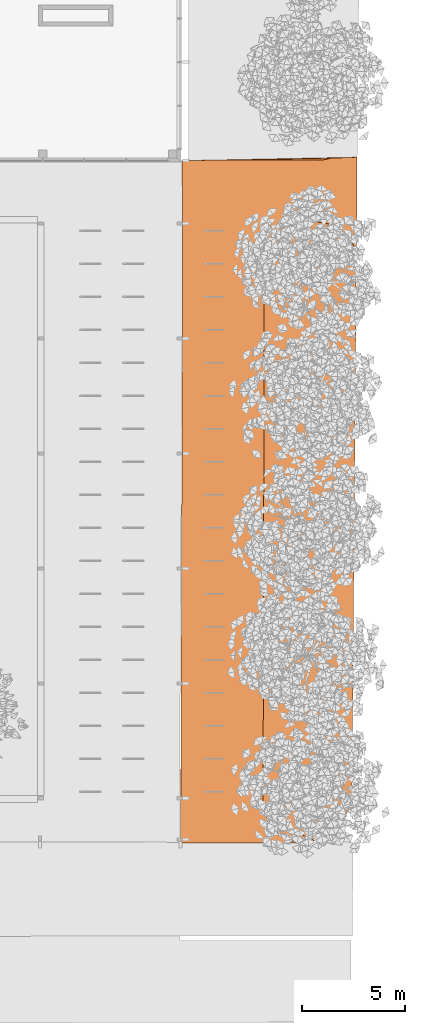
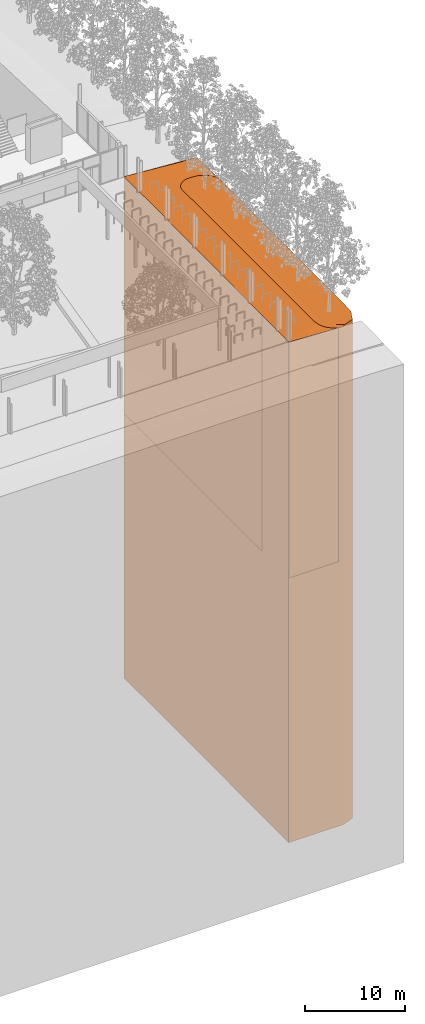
# One storey, part 51 of 69: 2 proxies.
"""IFC2X3 building model written with IfcOpenShell, lengths in millimetres."""

from ifc_helpers import new_model, entity, si_unit, converted_unit, derived_unit, money_unit, direction, frame, origin_with_axes, place, context, subcontext, project, spatial, faceted_brep, material, type_object, element, save


model = new_model("IFC2X3")

# Units and contexts
model_context = context("Model", 3, precision=0.01, world=origin_with_axes(), true_north=direction((0.0, 1.0)))
body_context = subcontext(model_context, "Body", "Model", "MODEL_VIEW")
ifc_project = project(units=[si_unit("LENGTHUNIT", "METRE", prefix="MILLI"), si_unit("AREAUNIT", "SQUARE_METRE"), si_unit("VOLUMEUNIT", "CUBIC_METRE"), converted_unit("PLANEANGLEUNIT", "DEGREE", entity("IfcPlaneAngleMeasure", 0.0174532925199), si_unit("PLANEANGLEUNIT", "RADIAN"), dimensions=[0, 0, 0, 0, 0, 0, 0]), si_unit("SOLIDANGLEUNIT", "STERADIAN"), money_unit("EUR"), converted_unit("TIMEUNIT", "Year", entity("IfcTimeMeasure", 31556926.0), si_unit("TIMEUNIT", "SECOND"), dimensions=[0, 0, 1, 0, 0, 0, 0]), si_unit("MASSUNIT", "GRAM", prefix="KILO"), si_unit("THERMODYNAMICTEMPERATUREUNIT", "DEGREE_CELSIUS"), si_unit("LUMINOUSINTENSITYUNIT", "LUMEN"), si_unit("ENERGYUNIT", "JOULE", prefix="MEGA"), derived_unit("THERMALCONDUCTANCEUNIT", [(si_unit("POWERUNIT", "WATT"), 1), (si_unit("LENGTHUNIT", "METRE"), -1), (si_unit("THERMODYNAMICTEMPERATUREUNIT", "KELVIN"), -1)]), derived_unit("SPECIFICHEATCAPACITYUNIT", [(si_unit("ENERGYUNIT", "JOULE"), 1), (si_unit("MASSUNIT", "GRAM", prefix="KILO"), -1), (si_unit("THERMODYNAMICTEMPERATUREUNIT", "KELVIN"), -1)]), derived_unit("MASSDENSITYUNIT", [(si_unit("MASSUNIT", "GRAM", prefix="KILO"), 1), (si_unit("VOLUMEUNIT", "CUBIC_METRE"), -1)])], contexts=[model_context])

# Site, building, storey
site_placement = place(None, origin_with_axes())
site = spatial("IfcSite", under=ifc_project, at=site_placement, Name="Puškini 31, Narva", CompositionType="ELEMENT")
building_placement = place(site_placement, origin_with_axes())
building = spatial("IfcBuilding", under=site, at=building_placement, Name="Narva Riigigümnaasium", CompositionType="ELEMENT")
storey_placement = place(building_placement, origin_with_axes())
storey = spatial("IfcBuildingStorey", under=building, at=storey_placement, Name="1.korrus 0.00", CompositionType="ELEMENT", Elevation=0.0)

# Proxies
ifc_material_1 = material(Name="Sillutiskivi")
building_element_proxy_type_1 = type_object("IfcBuildingElementProxyType", Name="Sillutiskivi 30000", PredefinedType="NOTDEFINED")
proxy_1_placement = place(storey_placement, frame((54387.6133984, 116843.402683, 1157.88154799), z_axis=(0.0, 0.0, 1.0), x_axis=(1.0, 0.0, 0.0)))
element("IfcBuildingElementProxy", 1, at=proxy_1_placement, inside=storey, type_object=building_element_proxy_type_1, material=ifc_material_1, Name="Kegliiklustee", context=body_context, shape_type="Brep", body=[
    faceted_brep([(7335.89620436, 33277.7271091, -30000.0), (8557.46412592, 33302.0571503, -30000.0), (8521.22985903, 28622.4620367, -30000.0), (8513.245285, 28658.1443506, -30000.0), (8472.18304337, 28794.9762747, -30000.0), (8421.46394592, 28928.5302199, -30000.0), (8361.34644556, 29058.1256259, -30000.0), (8292.13688729, 29183.1021044, -30000.0), (8214.18794714, 29302.8228037, -30000.0), (8127.89683506, 29416.6776547, -30000.0), (8033.70327077, 29524.0864792, -30000.0), (7932.08724308, 29624.5019463, -30000.0), (7823.56656398, 29717.4123619, -30000.0), (7708.69422997, 29802.3442758, -30000.0), (7588.05560413, 29878.8648944, -30000.0), (7462.26543326, 29946.5842863, -30000.0), (7331.96471522, 30005.1573689, -30000.0), (7197.81743261, 30054.2856671, -30000.0), (7060.50716923, 30093.7188345, -30000.0), (6920.73362671, 30123.2559287, -30000.0), (6779.20905899, 30142.7464354, -30000.0), (6636.65464281, 30152.0910355, -30000.0), (6581.55204778, 30151.6969529, -30000.0), (6056.13619296, 30152.8641492, -30000.0), (5984.70618801, 30153.022829, -30000.0), (5842.18752889, 30143.1478634, -30000.0), (5700.73646296, 30123.1308934, -30000.0), (5561.07379242, 30093.0739208, -30000.0), (5423.91120623, 30053.1301091, -30000.0), (5289.9476535, 30003.5030028, -30000.0), (5159.86578177, 29944.4454902, -30000.0), (5034.32845845, 29876.258515, -30000.0), (4913.97539296, 29799.2895422, -30000.0), (4799.41987693, 29713.9307882, -30000.0), (4691.24565903, 29620.6172215, -30000.0), (4590.00397026, 29519.8243468, -30000.0), (4496.21071507, 29412.0657813, -30000.0), (4410.34384238, 29297.8906382, -30000.0), (4332.8409101, 29177.8807276, -30000.0), (4264.0968554, 29052.6475927, -30000.0), (4204.46198223, 28922.8293927, -30000.0), (4154.24017623, 28789.0876515, -30000.0), (4113.68735621, 28652.1038863, -30000.0), (4083.01017006, 28512.5761349, -30000.0), (4062.36494167, 28371.2153989, -30000.0), (4051.8568744, 28228.7420201, -30000.0), (4051.69806156, 28157.2516802, -30000.0), (3994.72413132, 2157.23755014, -30000.0), (3992.88038093, 2085.71196727, -30000.0), (3999.18060762, 1942.75203993, -30000.0), (4015.43786768, 1800.57983739, -30000.0), (4041.57295739, 1659.88800832, -30000.0), (4077.45854922, 1521.36198917, -30000.0), (4122.91981216, 1385.67666479, -30000.0), (4177.73526353, 1253.49308043, -30000.0), (4241.63784793, 1125.45522124, -30000.0), (4314.31623842, 1002.18687478, -30000.0), (4395.41635318, 884.288592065, -30000.0), (4484.54308059, 772.334761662, -30000.0), (4581.26220421, 666.870811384, -30000.0), (4685.10251818, 568.410550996, -30000.0), (4795.55812293, 477.433668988, -30000.0), (4912.09088986, 394.383395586, -30000.0), (5034.13308305, 319.664343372, -30000.0), (5161.09012519, 253.640536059, -30000.0), (5292.34349434, 196.633634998, -30000.0), (5427.25373727, 148.921372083, -30000.0), (5565.16358485, 110.736196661, -30000.0), (5705.40115416, 82.2641430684, -30000.0), (5752.41076013, 76.0947295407, -30000.0), (0.155700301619, 71.0660343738, -30000.0), (12.0170083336, 5484.90348715, -30000.0), (95.7184344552, 27639.6174723, -30000.0), (72.5920338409, 33133.0634466, -30000.0), (1558.74076768, 33162.6631596, -30000.0), (6632.39260207, 33151.5903335, -30000.0), (6703.82260645, 33151.431407, -30000.0), (6846.34129964, 33161.3058803, -30000.0), (6987.79243468, 33181.3223616, -30000.0), (7127.45520901, 33211.3788517, -30000.0), (7264.61793315, 33251.3221896, -30000.0), (7335.89620436, 33277.7271091, -1757.10247486), (8557.46412592, 33302.0571503, -1857.88154799), (8539.59854655, 30994.7473825, -1757.88154799), (8521.22985902, 28622.4620367, -1674.58822363), (8513.245285, 28658.1443506, -1675.28087421), (8472.18304337, 28794.9762747, -1677.22879255), (8421.46394592, 28928.5302199, -1678.40848161), (8361.34644556, 29058.1256259, -1678.81392994), (8292.13688729, 29183.1021044, -1678.44307149), (8214.18794714, 29302.8228037, -1677.29779605), (8127.89683506, 29416.6776547, -1675.3839397), (8033.70327077, 29524.0864792, -1672.711255), (7932.08724308, 29624.5019463, -1669.29336134), (7823.56656398, 29717.4123619, -1665.14767554), (7708.69422997, 29802.3442758, -1660.29532304), (7661.83523209, 29832.0667588, -1657.88154799), (7588.05560413, 29878.8648944, -1657.88154799), (7667.79460512, 29828.2867513, -1658.41905419), (7571.89943089, 29887.5626029, -1657.88154799), (7462.26543326, 29946.5842863, -1649.43712688), (7331.96471522, 30005.1573689, -1639.54088796), (7197.81743261, 30054.2856671, -1629.48766917), (7138.51774914, 30071.3155255, -1625.1003519), (7060.50716923, 30093.7188345, -1620.10469901), (6920.73362671, 30123.2559287, -1611.06672055), (6779.20905899, 30142.7464354, -1601.82991376), (6636.65464281, 30152.0910355, -1592.44134729), (6581.55204778, 30151.6969529, -1588.77939394), (6116.08265517, 30152.7309799, -1557.88154799), (6056.13619296, 30152.8641492, -1553.90230344), (5984.70618801, 30153.022829, -1549.1607816), (5842.18752889, 30143.1478634, -1539.61664198), (5700.73646296, 30123.1308934, -1530.06004116), (5561.07379242, 30093.0739208, -1520.53967739), (5423.91120623, 30053.1301091, -1511.10406424), (5289.9476535, 30003.5030028, -1501.80128346), (5159.86578177, 29944.4454902, -1492.67873988), (5089.07483649, 29905.9946112, -1487.66235518), (5034.32845845, 29876.258515, -1482.84922762), (4913.97539296, 29799.2895422, -1471.82933354), (4799.41987693, 29713.9307882, -1460.88254271), (4769.41127092, 29688.0446749, -1457.88154799), (4691.24565903, 29620.6172215, -1447.34816248), (4590.00397026, 29519.8243468, -1433.01885609), (4496.21071507, 29412.0657813, -1419.01052591), (4410.34384238, 29297.8906382, -1405.39455518), (4332.8409101, 29177.8807276, -1392.24032776), (4264.0968554, 29052.6475927, -1379.61487457), (4204.46198223, 28922.8293927, -1367.58253205), (4173.88539449, 28841.403287, -1357.88154799), (4154.24017623, 28789.0876515, -1354.1339412), (4204.15032503, 28921.999443, -1367.51192507), (4131.90490857, 28713.6411336, -1348.8727681), (4113.68735621, 28652.1038863, -1344.6448499), (4083.01017006, 28512.5761349, -1335.27295242), (4062.36494167, 28371.2153989, -1325.98838765), (4051.8568744, 28228.7420201, -1316.83846758), (4051.69806156, 28157.2516802, -1312.35035509), (3995.16153833, 2356.84794121, -1257.35809594), (3994.72413132, 2157.23755014, -1257.37150198), (4049.79681564, 27289.6194046, -1257.88154799), (4048.16817696, 26546.3912574, -1257.88154799), (4047.95163015, 26447.5702664, -1250.72470573), (4043.6700052, 24493.6536488, -1257.25080339), (3992.88038093, 2085.71196727, -1257.37270531), (3999.18060762, 1942.75203993, -1257.39642108), (4015.43786768, 1800.57983739, -1257.44133044), (4041.57295739, 1659.88800832, -1257.50721459), (4077.45854922, 1521.36198917, -1257.59375254), (4078.43805148, 1518.43853141, -1257.596053), (4122.91981216, 1385.67666479, -1273.91057234), (4177.73526353, 1253.49308043, -1290.58343398), (4241.63784793, 1125.45522124, -1307.17415862), (4314.31623842, 1002.18687478, -1323.60191791), (4395.41635318, 884.288592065, -1339.78667745), (4484.54308059, 772.334761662, -1355.64958673), (4581.26220421, 666.870811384, -1371.11336325), (4685.10251818, 568.410550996, -1386.10266903), (4795.55812293, 477.433668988, -1400.5444777), (4912.09088986, 394.383395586, -1414.3684302), (5034.13308305, 319.664343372, -1427.50717764), (5158.62880845, 254.920539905, -1438.85807259), (5161.09012519, 253.640536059, -1439.40372659), (5144.92613678, 262.046592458, -1438.31929195), (5146.32711772, 261.318014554, -1438.48104681), (5176.69245442, 246.864020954, -1442.44020971), (5292.34349434, 196.633634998, -1466.50628605), (5427.25373727, 148.921372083, -1490.61066462), (5565.16358485, 110.736196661, -1511.38918872), (5705.40115416, 82.2641430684, -1528.74062746), (5752.41076013, 76.0947295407, -1533.32615715), (0.155700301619, 71.0660343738, -1249.40198554), (12.0170083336, 5484.90348715, -1231.08860451), (0.156338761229, 71.3574454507, -1249.29572927), (0.162356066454, 74.1039142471, -1248.99600751), (0.166445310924, 75.970361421, -1248.99588215), (0.270664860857, 123.539120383, -1248.99565156), (95.7184344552, 27639.6174723, -1157.88154799), (72.5920338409, 33133.0634466, -1157.88154799), (1558.74076768, 33162.6631596, -1280.48847741), (6278.43299689, 33152.3628211, -1657.88154799), (6632.39260207, 33151.5903335, -1685.27499612), (1683.21182379, 33162.3915118, -1303.64135718), (1779.21038887, 33162.1820028, -1309.68017314), (2402.03594647, 33160.8227375, -1357.88154799), (3694.168297, 33158.0027654, -1457.88154799), (4986.300647, 33155.1827933, -1557.88154799), (6703.82260645, 33151.431407, -1690.80296216), (6846.34129964, 33161.3058803, -1702.18753269), (6987.79243468, 33181.3223616, -1713.84272851), (7127.45520901, 33211.3788517, -1725.70915742), (7264.61793315, 33251.3221896, -1737.72635081), (7277.2177164, 33255.9897588, -1738.86503266), (7334.50011969, 33277.2099318, -1759.27943472), (7520.82589203, 33260.146235, -1757.88154799), (7620.15306181, 30168.8403621, -1657.88154799), (6032.37117996, 30829.082878, -1557.88154799), (4444.58929822, 31489.3253938, -1457.88154799), (4638.73755112, 29920.6929033, -1457.88154799), (4134.98922682, 28856.2513055, -1357.88154799), (3124.45346804, 29181.1194817, -1357.88154799), (1609.18642477, 28074.2295866, -1257.88154799), (5153.09008382, 250.610080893, -1439.90137891), (1614.39182087, 30019.4027361, -1257.88154799), (1115.65198438, 33150.8602784, -1257.88154799), (1269.0255345, 32809.8104246, -1257.88154799), (2856.80741635, 32149.5679087, -1357.88154799), (3126.56468593, 29970.0478192, -1357.88154799)], [[[0, 1, 2, 3, 4, 5, 6, 7, 8, 9, 10, 11, 12, 13, 14, 15, 16, 17, 18, 19, 20, 21, 22, 23, 24, 25, 26, 27, 28, 29, 30, 31, 32, 33, 34, 35, 36, 37, 38, 39, 40, 41, 42, 43, 44, 45, 46, 47, 48, 49, 50, 51, 52, 53, 54, 55, 56, 57, 58, 59, 60, 61, 62, 63, 64, 65, 66, 67, 68, 69, 70, 71, 72, 73, 74, 75, 76, 77, 78, 79, 80]], [[1, 0, 81, 82]], [[2, 1, 82, 83, 84]], [[84, 85, 3, 2]], [[85, 86, 4, 3]], [[86, 87, 5, 4]], [[87, 88, 6, 5]], [[88, 89, 7, 6]], [[89, 90, 8, 7]], [[90, 91, 9, 8]], [[91, 92, 10, 9]], [[92, 93, 11, 10]], [[93, 94, 12, 11]], [[94, 95, 13, 12]], [[96, 97, 14, 13, 95, 98]], [[99, 100, 15, 14, 97]], [[100, 101, 16, 15]], [[101, 102, 17, 16]], [[103, 104, 18, 17, 102]], [[104, 105, 19, 18]], [[105, 106, 20, 19]], [[106, 107, 21, 20]], [[107, 108, 22, 21]], [[109, 110, 23, 22, 108]], [[110, 111, 24, 23]], [[111, 112, 25, 24]], [[112, 113, 26, 25]], [[113, 114, 27, 26]], [[114, 115, 28, 27]], [[115, 116, 29, 28]], [[116, 117, 30, 29]], [[118, 119, 31, 30, 117]], [[119, 120, 32, 31]], [[120, 121, 33, 32]], [[122, 123, 34, 33, 121]], [[123, 124, 35, 34]], [[124, 125, 36, 35]], [[125, 126, 37, 36]], [[126, 127, 38, 37]], [[127, 128, 39, 38]], [[128, 129, 40, 39]], [[130, 131, 41, 40, 129, 132]], [[133, 134, 42, 41, 131]], [[134, 135, 43, 42]], [[135, 136, 44, 43]], [[136, 137, 45, 44]], [[137, 138, 46, 45]], [[139, 140, 47, 46, 138, 141, 142, 143, 144]], [[140, 145, 48, 47]], [[145, 146, 49, 48]], [[146, 147, 50, 49]], [[147, 148, 51, 50]], [[148, 149, 52, 51]], [[150, 151, 53, 52, 149]], [[151, 152, 54, 53]], [[152, 153, 55, 54]], [[153, 154, 56, 55]], [[154, 155, 57, 56]], [[155, 156, 58, 57]], [[156, 157, 59, 58]], [[157, 158, 60, 59]], [[158, 159, 61, 60]], [[159, 160, 62, 61]], [[160, 161, 63, 62]], [[162, 163, 64, 63, 161, 164, 165]], [[166, 167, 65, 64, 163]], [[167, 168, 66, 65]], [[168, 169, 67, 66]], [[169, 170, 68, 67]], [[171, 69, 68, 170]], [[69, 171, 172, 70]], [[173, 71, 70, 172, 174, 175, 176, 177]], [[72, 71, 173, 178]], [[73, 72, 178, 179]], [[180, 74, 73, 179]], [[181, 182, 75, 74, 180, 183, 184, 185, 186, 187]], [[182, 188, 76, 75]], [[188, 189, 77, 76]], [[189, 190, 78, 77]], [[190, 191, 79, 78]], [[191, 192, 80, 79]], [[81, 0, 80, 192, 193, 194]], [[81, 194, 82]], [[83, 82, 195]], [[85, 84, 83, 98, 95, 94, 93, 92, 91, 90, 89, 88, 87, 86]], [[97, 96, 196, 99]], [[96, 98, 83, 196]], [[100, 99, 196, 103, 102, 101]], [[104, 103, 196, 197, 109, 108, 107, 106, 105]], [[110, 109, 197, 198, 199, 118, 117, 116, 115, 114, 113, 112, 111]], [[119, 118, 199, 122, 121, 120]], [[123, 122, 199, 200, 132, 129, 128, 127, 126, 125, 124]], [[131, 130, 200, 133]], [[130, 132, 200]], [[134, 133, 200, 201, 202, 141, 138, 137, 136, 135]], [[150, 149, 148, 147, 146, 145, 140, 139, 176, 175]], [[142, 141, 202]], [[143, 142, 202, 178]], [[144, 143, 178, 173, 177]], [[139, 144, 177, 176]], [[164, 161, 160, 159, 158, 157, 156, 155, 154, 153, 152, 151, 150, 175, 174, 203]], [[166, 163, 162, 203]], [[165, 164, 203]], [[162, 165, 203]], [[171, 170, 169, 168, 167, 166, 203, 174, 172]], [[179, 178, 204]], [[183, 180, 179, 205]], [[193, 192, 191, 190, 189, 188, 182, 181, 196, 83, 195]], [[184, 183, 205]], [[185, 184, 205, 206, 207]], [[186, 185, 207, 198]], [[187, 186, 198, 197]], [[181, 187, 197, 196]], [[194, 193, 195, 82]], [[198, 207, 208, 199]], [[199, 208, 200]], [[208, 201, 200]], [[204, 202, 201, 208]], [[204, 178, 202]], [[204, 206, 179]], [[206, 205, 179]], [[206, 204, 208, 207]]]),
])
ifc_material_2 = material(Name="Roheala")
building_element_proxy_type_2 = type_object("IfcBuildingElementProxyType", Name="Roheala", PredefinedType="NOTDEFINED")
proxy_2_placement = place(storey_placement, frame((54379.1766765, 116914.461206, -61100.0), z_axis=(0.0, 0.0, 1.0), x_axis=(1.0, 0.0, 0.0)))
element("IfcBuildingElementProxy", 2, at=proxy_2_placement, inside=storey, type_object=building_element_proxy_type_2, material=ifc_material_2, Name="Roheala", context=body_context, shape_type="Brep", body=[
    faceted_brep([(7344.33292631, 33206.6685863, 60500.7790731), (7344.33292631, 33206.6685863, 32257.881548), (8565.90084787, 33230.9986275, 32257.881548), (8565.90084787, 33230.9986275, 0.0), (81.028755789, 33062.0049238, 0.0), (81.028755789, 33062.0049238, 32257.881548), (1567.17748963, 33091.6046368, 32257.881548), (1567.17748963, 33091.6046368, 60977.3930706), (7342.93684163, 33206.151409, 60498.6021133), (7285.65443835, 33184.931236, 60519.0165153), (7273.0546551, 33180.2636668, 60520.1551972), (7273.0546551, 33180.2636668, 32257.881548), (8529.66658097, 28551.403514, 32257.881548), (7135.89193096, 33140.3203289, 32257.881548), (6996.22915663, 33110.2638389, 32257.881548), (6854.77802159, 33090.2473575, 32257.881548), (6712.25932839, 33080.3728843, 32257.881548), (6640.82932402, 33080.5318108, 32257.881548), (104.155156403, 27568.5589495, 32257.881548), (20.4537302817, 5413.84496438, 32257.881548), (8.59242224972, 0.00751160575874, 32257.881548), (5760.84748207, 5.03620677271, 32257.881548), (5713.83787611, 11.2056203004, 32257.881548), (5573.6003068, 39.6776738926, 32257.881548), (5435.69045922, 77.8628493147, 32257.881548), (5300.78021629, 125.57511223, 32257.881548), (5169.52684714, 182.582013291, 32257.881548), (5042.569805, 248.605820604, 32257.881548), (4920.52761181, 323.324872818, 32257.881548), (4803.99484488, 406.37514622, 32257.881548), (4693.53924013, 497.352028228, 32257.881548), (4589.69892615, 595.812288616, 32257.881548), (4492.97980254, 701.276238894, 32257.881548), (4403.85307512, 813.230069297, 32257.881548), (4322.75296037, 931.128352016, 32257.881548), (4250.07456988, 1054.39669847, 32257.881548), (4186.17198547, 1182.43455766, 32257.881548), (4131.35653411, 1314.61814202, 32257.881548), (4085.89527117, 1450.3034664, 32257.881548), (4050.00967934, 1588.82948555, 32257.881548), (4023.87458963, 1729.52131462, 32257.881548), (4007.61732957, 1871.69351717, 32257.881548), (4001.31710288, 2014.65344451, 32257.881548), (4003.16085327, 2086.17902737, 32257.881548), (4060.1347835, 28086.1931574, 32257.881548), (4060.29359635, 28157.6834974, 32257.881548), (4070.80166362, 28300.1568762, 32257.881548), (4091.44689201, 28441.5176122, 32257.881548), (4122.12407816, 28581.0453635, 32257.881548), (4162.67689818, 28718.0291287, 32257.881548), (4212.89870417, 28851.7708699, 32257.881548), (4272.53357735, 28981.5890699, 32257.881548), (4341.27763204, 29106.8222048, 32257.881548), (4418.78056433, 29226.8321154, 32257.881548), (4504.64743702, 29341.0072586, 32257.881548), (4598.44069221, 29448.765824, 32257.881548), (4699.68238098, 29549.5586987, 32257.881548), (4807.85659888, 29642.8722654, 32257.881548), (4922.41211491, 29728.2310194, 32257.881548), (5042.76518039, 29805.1999922, 32257.881548), (5168.30250372, 29873.3869675, 32257.881548), (5298.38437545, 29932.44448, 32257.881548), (5432.34792818, 29982.0715863, 32257.881548), (5569.51051437, 30022.015398, 32257.881548), (5709.17318491, 30052.0723706, 32257.881548), (5850.62425084, 30072.0893406, 32257.881548), (5993.14290996, 30081.9643062, 32257.881548), (6064.5729149, 30081.8056265, 32257.881548), (6589.98876973, 30080.6384301, 32257.881548), (6645.09136476, 30081.0325127, 32257.881548), (6787.64578094, 30071.6879127, 32257.881548), (6929.17034866, 30052.197406, 32257.881548), (7068.94389118, 30022.6603118, 32257.881548), (7206.25415456, 29983.2271444, 32257.881548), (7340.40143717, 29934.0988461, 32257.881548), (7470.7021552, 29875.5257635, 32257.881548), (7596.49232608, 29807.8063717, 32257.881548), (7717.13095191, 29731.285753, 32257.881548), (7832.00328592, 29646.3538391, 32257.881548), (7940.52396503, 29553.4434235, 32257.881548), (8042.13999272, 29453.0279564, 32257.881548), (8136.33355701, 29345.6191319, 32257.881548), (8222.62466909, 29231.7642809, 32257.881548), (8300.57360923, 29112.0435816, 32257.881548), (8369.78316751, 28987.0671031, 32257.881548), (8429.90066787, 28857.4716971, 32257.881548), (8480.61976532, 28723.9177519, 32257.881548), (8521.68200695, 28587.0858279, 32257.881548), (8529.66658097, 28551.403514, 60583.2933244), (8525.98225565, 28075.5790453, 60600.0), (8525.98225565, 28075.5790453, 0.0), (6258.33549228, 5.47111717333, 0.0), (0.0, 0.0, 0.0), (104.155156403, 27568.5589495, 0.0), (8307.3001986, 1959.47271656, 0.0), (7642.13587133, 507.630400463, 0.0), (6640.82932402, 33080.5318108, 60572.6065519), (6286.86971883, 33081.3042984, 60600.0), (4994.73736894, 33084.1242705, 60700.0), (3702.60501895, 33086.9442426, 60800.0), (2410.47266842, 33089.7642147, 60900.0), (1787.64711081, 33091.1234801, 60948.2013749), (1691.64854573, 33091.332989, 60954.2401908), (2405.12348783, 33101.6589466, 60900.0), (3686.15826946, 33123.5161385, 60800.0), (4967.19305096, 33145.3733294, 60700.0), (6248.22783235, 33167.2305204, 60600.0), (6712.25932839, 33080.3728843, 60567.0785858), (6854.77802159, 33090.2473575, 60555.6940153), (6996.22915663, 33110.2638389, 60544.0388195), (7135.89193096, 33140.3203289, 60532.1723906), (0.0, 0.0, 61008.9036738), (20.4537302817, 5413.84496438, 61026.7929435), (8.70738680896, 52.4805976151, 61008.8858964), (8.60316725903, 4.91183865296, 61008.8856658), (8.59907801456, 3.04539147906, 61008.8855405), (8.59306070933, 0.29892268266, 61008.5858187), (8.59242224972, 0.00751160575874, 61008.4795625), (6258.33549228, 5.47111717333, 60700.0), (5760.84748207, 5.03620677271, 60724.5553908), (5713.83787611, 11.2056203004, 60729.1409205), (5573.6003068, 39.6776738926, 60746.4923593), (5435.69045922, 77.8628493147, 60767.2708834), (5300.78021629, 125.57511223, 60791.3752619), (5185.12917637, 175.805498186, 60815.4413383), (5169.52684714, 182.582013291, 60818.4778214), (5167.0655304, 183.862017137, 60819.0234754), (5154.76383967, 190.259491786, 60819.4005012), (5153.36285872, 190.98806969, 60819.562256), (5042.569805, 248.605820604, 60830.3743704), (4920.52761181, 323.324872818, 60843.5131178), (4803.99484488, 406.37514622, 60857.3370703), (4693.53924013, 497.352028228, 60871.778879), (4589.69892615, 595.812288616, 60886.7681847), (4492.97980254, 701.276238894, 60902.2319613), (4403.85307512, 813.230069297, 60918.0948705), (4322.75296037, 931.128352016, 60934.2796301), (4250.07456988, 1054.39669847, 60950.7073894), (4186.17198547, 1182.43455766, 60967.298114), (4131.35653411, 1314.61814202, 60983.9709757), (4086.87477343, 1447.38000864, 61000.285495), (4085.89527117, 1450.3034664, 61000.2877954), (4050.00967934, 1588.82948555, 61000.3743334), (4023.87458963, 1729.52131462, 61000.4402175), (4007.61732957, 1871.69351717, 61000.4851269), (4001.31710288, 2014.65344451, 61000.5088427), (4003.16085327, 2086.17902737, 61000.510046), (4058.23353759, 27218.5608818, 61000.0), (4060.1347835, 28086.1931574, 60945.5311929), (4003.59826028, 2285.78941844, 61000.523452), (4052.10672715, 24422.595126, 61000.6307446), (4056.38835209, 26376.5117436, 61007.1568423), (4056.60489891, 26475.3327347, 61000.0), (4060.29359635, 28157.6834974, 60941.0430804), (4070.80166362, 28300.1568762, 60931.8931603), (4091.44689201, 28441.5176122, 60922.6085956), (4122.12407816, 28581.0453635, 60913.2366981), (4140.34163052, 28642.5826108, 60909.0087799), (4162.67689818, 28718.0291287, 60903.7476068), (4212.58704698, 28850.9409202, 60890.3696229), (4212.89870417, 28851.7708699, 60890.2990159), (4182.32211643, 28770.3447642, 60900.0), (4272.53357735, 28981.5890699, 60878.2666734), (4341.27763204, 29106.8222048, 60865.6412202), (4418.78056433, 29226.8321154, 60852.4869928), (4504.64743702, 29341.0072586, 60838.8710221), (4598.44069221, 29448.765824, 60824.8626919), (4699.68238098, 29549.5586987, 60810.5333855), (4777.84799287, 29616.9861521, 60800.0), (4807.85659888, 29642.8722654, 60796.9990053), (4922.41211491, 29728.2310194, 60786.0522145), (5042.76518039, 29805.1999922, 60775.0323204), (5097.51155844, 29834.9360884, 60770.2191928), (5168.30250372, 29873.3869675, 60765.2028081), (5298.38437545, 29932.44448, 60756.0802645), (5432.34792818, 29982.0715863, 60746.7774837), (5569.51051437, 30022.015398, 60737.3418706), (5709.17318491, 30052.0723706, 60727.8215068), (5850.62425084, 30072.0893406, 60718.264906), (5993.14290996, 30081.9643062, 60708.7207664), (6064.5729149, 30081.8056265, 60703.9792446), (6124.51937711, 30081.6724571, 60700.0), (6589.98876973, 30080.6384301, 60669.1021541), (6645.09136476, 30081.0325127, 60665.4402007), (6787.64578094, 30071.6879127, 60656.0516342), (6929.17034866, 30052.197406, 60646.8148274), (7068.94389118, 30022.6603118, 60637.776849), (7146.95447109, 30000.2570028, 60632.7811961), (7206.25415456, 29983.2271444, 60628.3938788), (7340.40143717, 29934.0988461, 60618.34066), (7470.7021552, 29875.5257635, 60608.4444211), (7580.33615284, 29816.5040801, 60600.0), (7596.49232608, 29807.8063717, 60600.0), (7676.23132707, 29757.2282285, 60599.4624938), (7717.13095191, 29731.285753, 60597.586225), (7670.27195404, 29761.008236, 60600.0), (7832.00328592, 29646.3538391, 60592.7338725), (7940.52396503, 29553.4434235, 60588.5881866), (8042.13999272, 29453.0279564, 60585.170293), (8136.33355701, 29345.6191319, 60582.4976083), (8222.62466909, 29231.7642809, 60580.5837519), (8300.57360923, 29112.0435816, 60579.4384765), (8369.78316751, 28987.0671031, 60579.067618), (8429.90066787, 28857.4716971, 60579.4730664), (8480.61976532, 28723.9177519, 60580.6527554), (8521.68200695, 28587.0858279, 60582.6006738), (7671.52000321, 29750.9245477, 60600.0), (8332.38658038, 4955.4140517, 60700.0), (8307.3001986, 1959.47271656, 60700.0), (8431.4249535, 16783.0725156, 60600.0), (8291.32232082, 1924.59808764, 60701.5214488), (7642.13587133, 507.630400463, 60800.0), (6534.62197654, 105.731114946, 60814.2811621), (5596.9552567, 518.419549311, 60900.0), (4294.83235911, 1551.80546281, 61000.0), (4222.2609506, 1495.32746413, 61000.0), (4253.67418744, 2428.56620845, 61000.0), (4109.18914552, 27202.1796155, 61000.0), (4361.0474165, 26284.6224323, 61000.0), (4320.89565594, 26723.7523881, 61000.0), (4322.57423233, 26918.3391071, 61000.0), (4148.15741606, 27201.0583598, 61000.0), (4294.85660651, 28727.3864398, 60900.0), (4861.58161012, 29467.9089104, 60800.0), (6159.34713839, 29800.2794655, 60700.0), (7535.98748551, 29557.9889479, 60600.0), (7474.14442585, 28842.1125657, 60600.0), (7796.34478243, 27929.825598, 60600.0), (7825.41425172, 27882.705722, 60600.0), (7790.16415068, 23796.3846328, 60600.0), (6990.47665899, 3944.85885692, 60800.0), (7542.67030432, 12479.8196471, 60700.0), (7275.69472959, 1884.96576158, 60800.0), (7105.93195504, 803.178174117, 60800.0), (5802.38247964, 1827.47343626, 60900.0), (4329.07022968, 1769.98111094, 61000.0), (4303.14131416, 1957.24411952, 61000.0), (5350.0062264, 5778.98402132, 60900.0), (5429.12334255, 23357.1307125, 60900.0), (5188.21277977, 25991.9104497, 60900.0), (5198.28423727, 27159.4307613, 60900.0), (5060.20425762, 27383.2501691, 60900.0), (4818.55399025, 28067.4653953, 60900.0), (5227.10187245, 29263.8329526, 60800.0), (6884.29794074, 27747.6337878, 60700.0), (6949.7042469, 27641.6140687, 60700.0), (6922.84702708, 24528.226572, 60700.0), (7565.27519465, 17502.147273, 60700.0), (6446.33826536, 9129.4018342, 60800.0), (6497.1992686, 20429.6389928, 60800.0), (5646.80898651, 2951.05148776, 60900.0), (6055.52990336, 25260.0685104, 60800.0), (6073.99424196, 27400.5224146, 60800.0), (5972.25109918, 27565.4419784, 60800.0), (5488.9505642, 28933.8724299, 60800.0)], [[[0, 1, 2, 3, 4, 5, 6, 7]], [[1, 0, 8, 9, 10, 11]], [[12, 2, 1, 11, 13, 14, 15, 16, 17, 6, 5, 18, 19, 20, 21, 22, 23, 24, 25, 26, 27, 28, 29, 30, 31, 32, 33, 34, 35, 36, 37, 38, 39, 40, 41, 42, 43, 44, 45, 46, 47, 48, 49, 50, 51, 52, 53, 54, 55, 56, 57, 58, 59, 60, 61, 62, 63, 64, 65, 66, 67, 68, 69, 70, 71, 72, 73, 74, 75, 76, 77, 78, 79, 80, 81, 82, 83, 84, 85, 86, 87]], [[12, 88, 89, 90, 3, 2]], [[91, 92, 93, 4, 3, 90, 94, 95]], [[18, 5, 4, 93]], [[96, 97, 98, 99, 100, 101, 102, 7, 6, 17]], [[8, 0, 7, 102]], [[9, 8, 102, 101, 103, 104, 105, 106]], [[10, 9, 106, 97, 96, 107, 108, 109, 110]], [[10, 110, 13, 11]], [[110, 109, 14, 13]], [[109, 108, 15, 14]], [[108, 107, 16, 15]], [[107, 96, 17, 16]], [[19, 18, 93, 92, 111, 112]], [[19, 112, 113, 114, 115, 116, 117, 20]], [[20, 117, 111, 92, 91, 118, 119, 21]], [[21, 119, 120, 22]], [[120, 121, 23, 22]], [[121, 122, 24, 23]], [[122, 123, 25, 24]], [[123, 124, 125, 26, 25]], [[125, 126, 127, 128, 129, 27, 26]], [[129, 130, 28, 27]], [[130, 131, 29, 28]], [[131, 132, 30, 29]], [[132, 133, 31, 30]], [[133, 134, 32, 31]], [[134, 135, 33, 32]], [[135, 136, 34, 33]], [[136, 137, 35, 34]], [[137, 138, 36, 35]], [[138, 139, 37, 36]], [[139, 140, 141, 38, 37]], [[141, 142, 39, 38]], [[142, 143, 40, 39]], [[143, 144, 41, 40]], [[144, 145, 42, 41]], [[145, 146, 43, 42]], [[147, 148, 44, 43, 146, 149, 150, 151, 152]], [[148, 153, 45, 44]], [[153, 154, 46, 45]], [[154, 155, 47, 46]], [[155, 156, 48, 47]], [[157, 158, 49, 48, 156]], [[159, 160, 50, 49, 158, 161]], [[160, 162, 51, 50]], [[162, 163, 52, 51]], [[163, 164, 53, 52]], [[164, 165, 54, 53]], [[165, 166, 55, 54]], [[166, 167, 56, 55]], [[168, 169, 57, 56, 167]], [[169, 170, 58, 57]], [[170, 171, 59, 58]], [[172, 173, 60, 59, 171]], [[173, 174, 61, 60]], [[174, 175, 62, 61]], [[175, 176, 63, 62]], [[176, 177, 64, 63]], [[177, 178, 65, 64]], [[178, 179, 66, 65]], [[179, 180, 67, 66]], [[181, 182, 68, 67, 180]], [[182, 183, 69, 68]], [[183, 184, 70, 69]], [[184, 185, 71, 70]], [[185, 186, 72, 71]], [[187, 188, 73, 72, 186]], [[188, 189, 74, 73]], [[189, 190, 75, 74]], [[191, 192, 76, 75, 190]], [[193, 194, 77, 76, 192, 195]], [[194, 196, 78, 77]], [[196, 197, 79, 78]], [[197, 198, 80, 79]], [[198, 199, 81, 80]], [[199, 200, 82, 81]], [[200, 201, 83, 82]], [[201, 202, 84, 83]], [[202, 203, 85, 84]], [[203, 204, 86, 85]], [[204, 205, 87, 86]], [[205, 88, 12, 87]], [[194, 193, 206, 89, 88, 205, 204, 203, 202, 201, 200, 199, 198, 197, 196]], [[207, 208, 94, 90, 89, 209]], [[210, 211, 95, 94, 208]], [[212, 118, 91, 95, 211]], [[98, 97, 106, 105]], [[99, 98, 105, 104]], [[100, 99, 104, 103]], [[101, 100, 103]], [[113, 112, 111]], [[114, 113, 111]], [[115, 114, 111]], [[116, 115, 111]], [[117, 116, 111]], [[120, 119, 118, 124, 123, 122, 121]], [[125, 124, 118, 213, 126]], [[127, 126, 213, 214]], [[128, 127, 214, 215]], [[129, 128, 215, 140, 139, 138, 137, 136, 135, 134, 133, 132, 131, 130]], [[141, 140, 215, 216, 149, 146, 145, 144, 143, 142]], [[148, 147, 217, 157, 156, 155, 154, 153]], [[150, 149, 216, 218]], [[151, 150, 218]], [[152, 151, 218]], [[147, 152, 218, 219, 220, 221, 217]], [[158, 157, 217, 222, 161]], [[160, 159, 223, 168, 167, 166, 165, 164, 163, 162]], [[159, 161, 222, 223]], [[169, 168, 223, 224, 172, 171, 170]], [[173, 172, 224, 181, 180, 179, 178, 177, 176, 175, 174]], [[182, 181, 224, 187, 186, 185, 184, 183]], [[188, 187, 224, 225, 191, 190, 189]], [[192, 191, 225, 226, 227, 228, 229, 209, 89, 206, 195]], [[193, 195, 206]], [[207, 230, 208]], [[207, 209, 231]], [[210, 232, 211]], [[208, 232, 210]], [[212, 213, 118]], [[212, 211, 233]], [[214, 213, 234, 235]], [[215, 214, 235, 236, 216]], [[237, 238, 218, 216]], [[238, 239, 219, 218]], [[219, 239, 240, 220]], [[220, 240, 241, 221]], [[217, 221, 242]], [[242, 222, 217]], [[243, 223, 222]], [[243, 224, 223]], [[225, 224, 226]], [[224, 244, 227, 226]], [[228, 227, 244, 245]], [[229, 228, 245, 246]], [[229, 246, 247, 209]], [[231, 248, 230, 207]], [[232, 208, 230]], [[209, 247, 231]], [[233, 211, 232]], [[212, 233, 213]], [[232, 234, 213, 233]], [[236, 235, 234]], [[216, 236, 234]], [[249, 238, 237, 248]], [[216, 250, 237]], [[238, 249, 251, 239]], [[239, 251, 252, 240]], [[240, 252, 253, 241]], [[241, 242, 221]], [[243, 222, 242, 254]], [[243, 254, 224]], [[253, 244, 224, 254]], [[252, 245, 244, 253]], [[251, 246, 245, 252]], [[247, 246, 251, 249]], [[248, 231, 247, 249]], [[250, 230, 248, 237]], [[232, 230, 250, 234]], [[234, 250, 216]], [[254, 242, 241, 253]]]),
])

save(model, "model.ifc")
